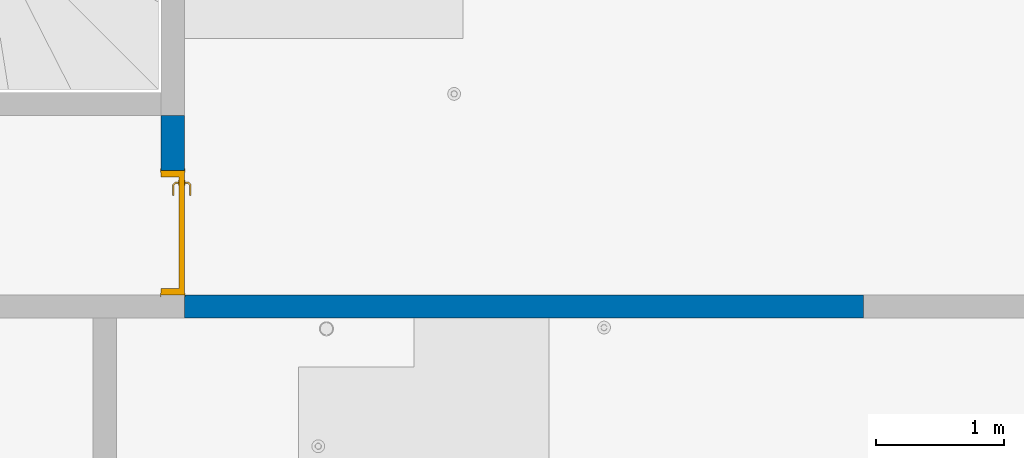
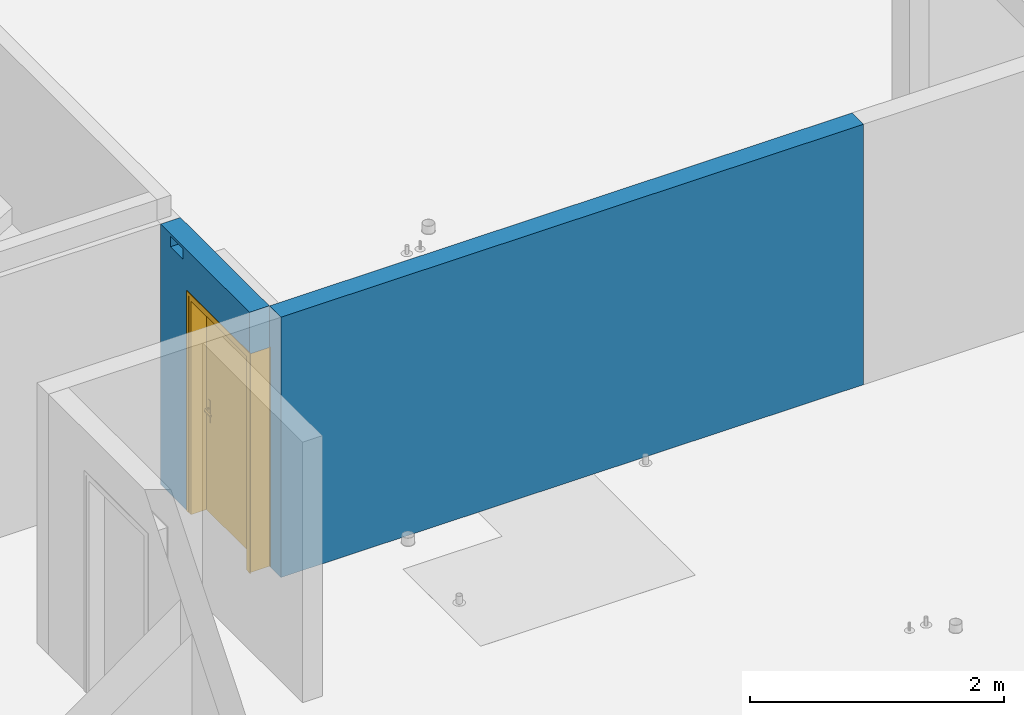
# One storey, part 17 of 34: 2 walls, 1 door, 3 openings.
"""IFC2X3 building model written with IfcOpenShell, lengths in centimetres."""

from ifc_helpers import new_model, entity, si_unit, converted_unit, derived_unit, direction, frame, frame_2d, origin, place, context, subcontext, project, spatial, rectangle, extrude, faceted_brep, source, transform, mapped, material, material_list, layer, layer_set, layer_usage, type_object, type_shapes, element, fill, save


model = new_model("IFC2X3")

# Units and contexts
model_context = context("Model", 3, precision=0.001, world=origin(), true_north=direction((6.12303176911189e-17, 1.0)))
body_context = subcontext(model_context, "Body", "Model", "MODEL_VIEW")
ifc_project = project(units=[si_unit("LENGTHUNIT", "METRE", prefix="CENTI"), si_unit("AREAUNIT", "SQUARE_METRE"), si_unit("VOLUMEUNIT", "CUBIC_METRE"), converted_unit("PLANEANGLEUNIT", "DEGREE", entity("IfcRatioMeasure", 0.0174532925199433), si_unit("PLANEANGLEUNIT", "RADIAN"), dimensions=[0, 0, 0, 0, 0, 0, 0]), si_unit("MASSUNIT", "GRAM", prefix="KILO"), derived_unit("MASSDENSITYUNIT", [(si_unit("MASSUNIT", "GRAM", prefix="KILO"), 1), (si_unit("LENGTHUNIT", "METRE"), -3)]), si_unit("TIMEUNIT", "SECOND"), si_unit("FREQUENCYUNIT", "HERTZ"), si_unit("THERMODYNAMICTEMPERATUREUNIT", "DEGREE_CELSIUS"), derived_unit("THERMALTRANSMITTANCEUNIT", [(si_unit("MASSUNIT", "GRAM", prefix="KILO"), 1), (si_unit("THERMODYNAMICTEMPERATUREUNIT", "KELVIN"), -1), (si_unit("TIMEUNIT", "SECOND"), -3)]), derived_unit("VOLUMETRICFLOWRATEUNIT", [(si_unit("LENGTHUNIT", "METRE"), 3), (si_unit("TIMEUNIT", "SECOND"), -1)]), si_unit("ELECTRICCURRENTUNIT", "AMPERE"), si_unit("ELECTRICVOLTAGEUNIT", "VOLT"), si_unit("POWERUNIT", "WATT"), si_unit("FORCEUNIT", "NEWTON"), si_unit("ILLUMINANCEUNIT", "LUX"), si_unit("LUMINOUSFLUXUNIT", "LUMEN"), si_unit("LUMINOUSINTENSITYUNIT", "CANDELA"), derived_unit("USERDEFINED", [(si_unit("MASSUNIT", "GRAM", prefix="KILO"), -1), (si_unit("LENGTHUNIT", "METRE"), -2), (si_unit("TIMEUNIT", "SECOND"), 3), (si_unit("LUMINOUSFLUXUNIT", "LUMEN"), 1)]), derived_unit("LINEARVELOCITYUNIT", [(si_unit("LENGTHUNIT", "METRE"), 1), (si_unit("TIMEUNIT", "SECOND"), -1)]), si_unit("PRESSUREUNIT", "PASCAL"), derived_unit("USERDEFINED", [(si_unit("LENGTHUNIT", "METRE"), -2), (si_unit("MASSUNIT", "GRAM", prefix="KILO"), 1), (si_unit("TIMEUNIT", "SECOND"), -2)])], contexts=[model_context])

# Site, building, storey
site_placement = place(None, origin())
site = spatial("IfcSite", under=ifc_project, at=site_placement, Name="Default", CompositionType="ELEMENT")
building_placement = place(site_placement, origin())
building = spatial("IfcBuilding", under=site, at=building_placement, Name="CAGE 03", CompositionType="ELEMENT")
storey_placement = place(building_placement, frame((0.0, 0.0, 340.0)))
storey = spatial("IfcBuildingStorey", under=building, at=storey_placement, Name="R+1", CompositionType="ELEMENT", Elevation=340.0)

# Wall, openings, door
ifc_material_1 = material(Name="Béton, C25/30")
ifc_layer = layer(ifc_material_1, 18.0)
ifc_layer_set = layer_set([ifc_layer], Name="Mur de base:Voile BA 18")
ifc_layer_usage_1 = layer_usage(ifc_layer_set, "AXIS2", "POSITIVE", -9.0)
wall_type = type_object("IfcWallType", Name="Mur de base:Voile BA 18", PredefinedType="STANDARD", material=ifc_layer_set)
wall_1_placement = place(storey_placement, frame((10499.3658201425, 4632.66066607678, 0.0), z_axis=(0.0, 0.0, 1.0), x_axis=(0.0, -1.0, 0.0)))
wall_1 = element("IfcWallStandardCase", 1, at=wall_1_placement, inside=storey, type_object=wall_type, material=ifc_layer_usage_1, Name="Mur de base:Voile BA 18", ObjectType="Mur de base:Voile BA 18", context=body_context, shape_type="SweptSolid", body=[
    extrude(rectangle(XDim=139.999999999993, YDim=17.9999999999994, at=frame_2d((69.9999999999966, 2.39808173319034e-13), x_axis=(-1.0, 0.0))), origin(), (0.0, 0.0, 1.0), 250.0),
])
opening_1_placement = place(wall_1_placement, origin())
element("IfcOpeningElement", 2, at=opening_1_placement, cuts=wall_1, Name="Mur de base:Voile BA 18", ObjectType="Opening", context=body_context, shape_type="SweptSolid", body=[
    extrude(rectangle(XDim=10.0, YDim=19.9999999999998, at=frame_2d((-4.33431068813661e-13, 5.41788836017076e-14), x_axis=(0.0, 1.0))), frame((25.4999999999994, -9.0, 242.5), z_axis=(0.0, 1.0, 0.0), x_axis=(1.0, 0.0, 0.0)), (0.0, 0.0, 1.0), 17.9999999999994),
])
opening_2_placement = place(wall_1_placement, frame((43.0, -9.0, 0.0)))
opening_2 = element("IfcOpeningElement", 3, at=opening_2_placement, cuts=wall_1, Name="Int. Simple:HB93:1", ObjectType="Opening", context=body_context, shape_type="SweptSolid", body=[
    extrude(rectangle(XDim=210.000000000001, YDim=96.9999999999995, at=frame_2d((105.000000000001, 48.4999999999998), x_axis=(1.0, 0.0))), frame((0.0, 0.0, 0.0), z_axis=(0.0, 1.0, 0.0), x_axis=(0.0, 0.0, 1.0)), (0.0, 0.0, 1.0), 18.0),
])
ifc_material_2 = material(Name="Finition Peinture - Blanc satiné")
ifc_material_3 = material(Name="Bois - Panneau de porte")
ifc_material_4 = material(Name="Bois - Cadre de porte")
ifc_material_list_1 = material_list([ifc_material_2, ifc_material_3, ifc_material_4])
ifc_material_list_2 = material_list([ifc_material_2, ifc_material_3, ifc_material_4])
door_style = type_object("IfcDoorStyle", Name="HB93", ConstructionType="NOTDEFINED", OperationType="SINGLE_SWING_RIGHT", ParameterTakesPrecedence=False, Sizeable=False, material=ifc_material_list_2)
shared_shape = source(origin(), body_context, "Body", "Brep", [
    faceted_brep([(96.5000000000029, -0.500000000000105, 87.0), (96.5000000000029, -0.500000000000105, 108.0), (95.535276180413, -0.500000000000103, 108.399601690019), (94.5000000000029, -0.500000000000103, 108.535898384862), (93.4647238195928, -0.500000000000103, 108.399601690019), (92.5000000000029, -0.500000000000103, 108.0), (92.5000000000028, -0.500000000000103, 87.0), (93.4647238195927, -0.500000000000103, 86.6003983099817), (94.5000000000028, -0.500000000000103, 86.464101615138), (95.5352761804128, -0.500000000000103, 86.6003983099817), (96.5000000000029, 0.0, 108.0), (96.5000000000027, 0.0, 87.0), (95.5352761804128, 0.0, 86.6003983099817), (94.5000000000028, 0.0, 86.464101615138), (93.4647238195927, 0.0, 86.6003983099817), (92.5000000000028, 0.0, 87.0), (92.5000000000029, 0.0, 108.0), (93.4647238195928, 0.0, 108.399601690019), (94.5000000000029, 0.0, 108.535898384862), (95.535276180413, 0.0, 108.399601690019)], [[[0, 1, 2, 3, 4, 5, 6, 7, 8, 9]], [[10, 11, 12, 13, 14, 15, 16, 17, 18, 19]], [[9, 12, 11, 0]], [[8, 13, 12, 9]], [[7, 14, 13, 8]], [[7, 6, 15, 14]], [[15, 6, 5, 16]], [[4, 17, 16, 5]], [[3, 18, 17, 4]], [[2, 19, 18, 3]], [[2, 1, 10, 19]], [[11, 10, 1, 0]]]),
    faceted_brep([(96.5000000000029, 4.0, 87.0), (96.5000000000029, 4.0, 108.0), (95.535276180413, 4.0, 108.399601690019), (94.5000000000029, 4.0, 108.535898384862), (93.4647238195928, 4.0, 108.399601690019), (92.500000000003, 4.0, 108.0), (92.5000000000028, 4.0, 87.0), (93.4647238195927, 4.0, 86.6003983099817), (94.5000000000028, 4.0, 86.464101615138), (95.5352761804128, 4.0, 86.6003983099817), (94.5000000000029, 4.49999999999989, 108.535898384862), (95.535276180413, 4.49999999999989, 108.399601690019), (96.5000000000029, 4.49999999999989, 108.0), (96.5000000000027, 4.49999999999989, 87.0), (95.5352761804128, 4.49999999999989, 86.6003983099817), (94.5000000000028, 4.49999999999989, 86.464101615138), (93.4647238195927, 4.49999999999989, 86.6003983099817), (92.5000000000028, 4.4999999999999, 87.0), (92.5000000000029, 4.4999999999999, 108.0), (93.4647238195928, 4.49999999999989, 108.399601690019)], [[[0, 1, 2, 3, 4, 5, 6, 7, 8, 9]], [[10, 11, 12, 13, 14, 15, 16, 17, 18, 19]], [[4, 19, 18, 5]], [[3, 10, 19, 4]], [[2, 11, 10, 3]], [[2, 1, 12, 11]], [[13, 12, 1, 0]], [[9, 14, 13, 0]], [[8, 15, 14, 9]], [[7, 16, 15, 8]], [[7, 6, 17, 16]], [[17, 6, 5, 18]]]),
    faceted_brep([(94.2974701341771, -0.500000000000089, 100.778044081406), (94.7025298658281, -0.500000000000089, 100.778044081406), (95.100000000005, -0.500000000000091, 100.699999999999), (95.100000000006, -0.500000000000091, 99.2999999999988), (94.7025298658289, -0.500000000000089, 99.221955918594), (94.297470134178, -0.500000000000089, 99.2219559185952), (93.9000000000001, -0.500000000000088, 99.3000000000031), (93.9000000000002, -0.500000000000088, 100.7), (94.7025298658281, -3.10045754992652, 100.778044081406), (95.1000000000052, -3.26509507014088, 100.7), (94.2974701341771, -2.93267631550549, 100.778044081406), (92.9298602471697, -4.30028620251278, 100.778044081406), (93.0976414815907, -4.70534593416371, 100.778044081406), (93.9000000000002, -2.76803879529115, 100.7), (93.9000000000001, -2.76803879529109, 99.3000000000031), (94.297470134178, -2.93267631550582, 99.2219559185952), (94.7025298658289, -3.10045754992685, 99.221955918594), (93.0976414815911, -4.70534593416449, 99.221955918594), (92.9298602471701, -4.30028620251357, 99.2219559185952), (95.100000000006, -3.26509507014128, 99.2999999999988), (93.2622790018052, -5.1028160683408, 100.7), (92.7652227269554, -3.90281606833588, 100.7), (92.7652227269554, -3.90281606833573, 99.3000000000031), (93.2622790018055, -5.10281606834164, 99.2999999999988), (84.4981359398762, -5.10281606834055, 100.7), (84.4981359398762, -4.70534593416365, 100.778044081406), (84.4981359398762, -4.30028620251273, 100.778044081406), (84.4981359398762, -3.90281606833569, 100.699999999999), (84.4981359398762, -3.90281606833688, 99.3000000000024), (84.4981359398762, -4.30028620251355, 99.2219559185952), (84.4981359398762, -4.70534593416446, 99.221955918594), (84.4981359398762, -5.10281606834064, 99.2999999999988), (88.7139980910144, -4.5028160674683, 100.78786867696), (89.2692302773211, -5.1028160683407, 100.7), (88.6316793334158, -3.90281606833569, 100.7), (88.631679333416, -3.90281606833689, 99.3000000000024), (88.7139981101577, -4.50281607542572, 99.2121313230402), (89.2692310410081, -5.10281606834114, 99.2999999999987)], [[[0, 1, 2, 3, 4, 5, 6, 7]], [[2, 1, 8, 9]], [[1, 0, 10, 11, 12, 8]], [[0, 7, 13, 10]], [[14, 13, 7, 6]], [[5, 15, 14, 6]], [[5, 4, 16, 17, 18, 15]], [[3, 19, 16, 4]], [[9, 19, 3, 2]], [[9, 8, 12, 20]], [[10, 13, 21, 11]], [[22, 21, 13, 14]], [[14, 15, 18, 22]], [[16, 19, 23, 17]], [[20, 23, 19, 9]], [[24, 25, 26, 27, 28, 29, 30, 31]], [[32, 25, 33]], [[33, 25, 24]], [[33, 20, 12]], [[11, 34, 32]], [[34, 11, 21]], [[27, 26, 34]], [[32, 26, 25]], [[32, 34, 26]], [[32, 33, 12]], [[11, 32, 12]], [[21, 22, 35, 28, 27, 34]], [[36, 29, 35]], [[30, 36, 37]], [[18, 35, 22]], [[29, 28, 35]], [[30, 37, 31]], [[37, 17, 23]], [[36, 17, 37]], [[36, 18, 17]], [[36, 35, 18]], [[29, 36, 30]], [[23, 20, 33, 24, 31, 37]]]),
    faceted_brep([(94.2974701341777, 4.49999999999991, 99.2219559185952), (94.7025298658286, 4.49999999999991, 99.221955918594), (95.1000000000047, 4.49999999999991, 99.2999999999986), (95.1000000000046, 4.49999999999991, 100.7), (94.7025298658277, 4.49999999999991, 100.778044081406), (94.2974701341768, 4.49999999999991, 100.778044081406), (93.8999999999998, 4.49999999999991, 100.7), (93.900000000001, 4.49999999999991, 99.3000000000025), (93.8999999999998, 6.7485204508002, 100.7), (93.8999999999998, 6.74852045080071, 99.3000000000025), (94.2974701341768, 6.91315797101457, 100.778044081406), (94.7025298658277, 7.0809392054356, 100.778044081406), (93.0838906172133, 8.69957845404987, 100.778044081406), (92.9161093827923, 8.29451872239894, 100.778044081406), (95.1000000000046, 7.24557672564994, 100.7), (95.1000000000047, 7.24557672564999, 99.2999999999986), (94.7025298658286, 7.08093920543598, 99.221955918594), (94.2974701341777, 6.91315797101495, 99.2219559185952), (92.9161093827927, 8.29451872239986, 99.2219559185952), (93.0838906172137, 8.69957845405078, 99.221955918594), (92.751471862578, 7.89704858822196, 100.7), (92.7514718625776, 7.89704858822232, 99.3000000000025), (93.2485281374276, 9.09704858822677, 100.7), (93.2485281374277, 9.09704858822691, 99.2999999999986), (84.4954216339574, 8.29451872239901, 100.778044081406), (84.4954216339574, 8.69957845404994, 100.778044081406), (84.4954216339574, 9.09704858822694, 100.7), (84.4954216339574, 9.09704858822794, 99.2999999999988), (84.4954216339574, 8.6995784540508, 99.221955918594), (84.4954216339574, 8.29451872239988, 99.2219559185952), (84.4954216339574, 7.89704858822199, 99.3000000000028), (84.4954216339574, 7.89704858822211, 100.7), (88.6234467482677, 7.89704858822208, 100.7), (88.6234479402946, 7.89704858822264, 99.3000000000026), (88.7057655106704, 8.49704858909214, 100.78786867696), (89.255479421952, 9.09704858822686, 100.7), (89.2554795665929, 9.09704858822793, 99.2999999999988), (88.7057654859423, 8.49704858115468, 99.2121313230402)], [[[0, 1, 2, 3, 4, 5, 6, 7]], [[8, 9, 7, 6]], [[5, 10, 8, 6]], [[5, 4, 11, 12, 13, 10]], [[3, 14, 11, 4]], [[14, 3, 2, 15]], [[2, 1, 16, 15]], [[1, 0, 17, 18, 19, 16]], [[0, 7, 9, 17]], [[20, 21, 9, 8]], [[8, 10, 13, 20]], [[14, 22, 12, 11]], [[23, 22, 14, 15]], [[15, 16, 19, 23]], [[17, 9, 21, 18]], [[24, 25, 26, 27, 28, 29, 30, 31]], [[21, 20, 32, 31, 30, 33]], [[34, 24, 32]], [[25, 34, 35]], [[13, 32, 20]], [[24, 31, 32]], [[25, 35, 26]], [[35, 12, 22]], [[34, 12, 35]], [[34, 13, 12]], [[34, 32, 13]], [[24, 34, 25]], [[22, 23, 36, 27, 26, 35]], [[37, 28, 36]], [[36, 28, 27]], [[36, 23, 19]], [[18, 33, 37]], [[33, 18, 21]], [[30, 29, 33]], [[37, 29, 28]], [[37, 33, 29]], [[37, 36, 19]], [[18, 37, 19]]]),
    faceted_brep([(100.500000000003, 4.0, 206.5), (100.500000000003, 4.0, 0.0), (10.5000000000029, 4.0, 0.0), (10.5000000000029, 4.0, 206.5), (100.500000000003, 0.0, 206.5), (10.5000000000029, 0.0, 206.5), (10.5000000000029, 0.0, 0.0), (100.500000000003, 0.0, 0.0)], [[[0, 1, 2, 3]], [[4, 5, 6, 7]], [[3, 5, 4, 0]], [[2, 6, 5, 3]], [[1, 7, 6, 2]], [[0, 4, 7, 1]]]),
    faceted_brep([(104.0, 0.0, 0.0), (100.500000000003, 0.0, 0.0), (100.500000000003, 4.0, 0.0), (99.0, 4.0, 0.0), (99.0, 18.0, 0.0), (104.0, 18.0, 0.0), (104.0, 18.0, 210.0), (104.0, 0.0, 210.0), (99.0, 18.0, 205.0), (12.0, 18.0, 205.0), (12.0, 18.0, 0.0), (7.0, 18.0, 0.0), (7.0, 18.0, 210.0), (99.0, 4.0, 205.0), (100.500000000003, 4.0, 206.5), (10.5000000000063, 4.0, 206.5), (10.5000000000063, 4.0, 0.0), (12.0, 4.0, 0.0), (12.0, 4.0, 205.0), (100.500000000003, 0.0, 206.5), (7.0, 0.0, 210.0), (7.0, 0.0, 0.0), (10.5000000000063, 0.0, 0.0), (10.5000000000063, 0.0, 206.5)], [[[0, 1, 2, 3, 4, 5]], [[5, 6, 7, 0]], [[4, 8, 9, 10, 11, 12, 6, 5]], [[3, 13, 8, 4]], [[2, 14, 15, 16, 17, 18, 13, 3]], [[1, 19, 14, 2]], [[0, 7, 20, 21, 22, 23, 19, 1]], [[12, 11, 21, 20]], [[21, 11, 10, 17, 16, 22]], [[18, 17, 10, 9]], [[23, 22, 16, 15]], [[6, 12, 20, 7]], [[13, 18, 9, 8]], [[19, 23, 15, 14]]]),
    faceted_brep([(102.500000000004, 18.0, 0.0), (102.500000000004, 18.5000000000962, 0.0), (105.500000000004, 18.5000000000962, 0.0), (105.500000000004, 18.0, 0.0), (105.500000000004, 18.0, 211.500000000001), (5.50000000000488, 18.0, 211.500000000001), (5.50000000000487, 18.0, 0.0), (8.50000000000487, 18.0, 0.0), (8.50000000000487, 18.0, 208.500000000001), (102.500000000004, 18.0, 208.500000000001), (105.500000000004, 18.5000000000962, 211.500000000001), (102.500000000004, 18.5000000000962, 208.500000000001), (8.50000000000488, 18.5000000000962, 208.500000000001), (8.50000000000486, 18.5000000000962, 0.0), (5.50000000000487, 18.5000000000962, 0.0), (5.50000000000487, 18.5000000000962, 211.500000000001)], [[[0, 1, 2, 3]], [[3, 4, 5, 6, 7, 8, 9, 0]], [[2, 10, 4, 3]], [[1, 11, 12, 13, 14, 15, 10, 2]], [[0, 9, 11, 1]], [[7, 6, 14, 13]], [[8, 7, 13, 12]], [[15, 14, 6, 5]], [[10, 15, 5, 4]], [[9, 8, 12, 11]]]),
    faceted_brep([(105.500000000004, -0.5, 0.0), (105.500000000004, -0.5, 211.500000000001), (5.50000000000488, -0.5, 211.500000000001), (5.50000000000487, -0.5, 0.0), (8.50000000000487, -0.5, 0.0), (8.50000000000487, -0.5, 208.500000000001), (102.500000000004, -0.5, 208.500000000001), (102.500000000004, -0.5, 0.0), (105.500000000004, 0.0, 0.0), (105.500000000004, 0.0, 211.500000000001), (102.500000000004, 0.0, 0.0), (102.500000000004, 0.0, 208.500000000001), (8.50000000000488, 0.0, 208.500000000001), (8.50000000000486, 0.0, 0.0), (5.50000000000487, 0.0, 0.0), (5.50000000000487, 0.0, 211.500000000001)], [[[0, 1, 2, 3, 4, 5, 6, 7]], [[8, 9, 1, 0]], [[10, 11, 12, 13, 14, 15, 9, 8]], [[7, 6, 11, 10]], [[5, 4, 13, 12]], [[15, 14, 3, 2]], [[9, 15, 2, 1]], [[6, 5, 12, 11]], [[4, 3, 14, 13]], [[7, 10, 8, 0]]]),
])
type_shapes(door_style, [shared_shape])
door_placement = place(opening_2_placement, frame((104.0, 18.0, 0.0), z_axis=(0.0, 0.0, 1.0), x_axis=(-1.0, 0.0, 0.0)))
door = element("IfcDoor", 4, at=door_placement, inside=storey, type_object=door_style, material=ifc_material_list_1, Name="Int. Simple:HB93", ObjectType="HB93", OverallHeight=210.000000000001, OverallWidth=96.9999999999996, context=body_context, shape_type="MappedRepresentation", body=[
    mapped(shared_shape, transform((0.0, 0.0, 0.0), scale=1.0)),
])
fill(opening_2, door)

# Wall, opening
ifc_layer_usage_2 = layer_usage(ifc_layer_set, "AXIS2", "POSITIVE", -9.0)
wall_2_placement = place(storey_placement, frame((11037.3658201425, 4483.66066607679, 0.0), z_axis=(0.0, 0.0, 1.0), x_axis=(-1.0, 0.0, 0.0)))
wall_2 = element("IfcWallStandardCase", 5, at=wall_2_placement, inside=storey, type_object=wall_type, material=ifc_layer_usage_2, Name="Mur de base:Voile BA 18", ObjectType="Mur de base:Voile BA 18", context=body_context, shape_type="SweptSolid", body=[
    extrude(rectangle(XDim=528.999999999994, YDim=17.9999999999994, at=frame_2d((264.499999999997, 8.26005930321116e-14), x_axis=(-1.0, 0.0))), origin(), (0.0, 0.0, 1.0), 250.0),
])
opening_3_placement = place(wall_2_placement, origin())
element("IfcOpeningElement", 6, at=opening_3_placement, cuts=wall_2, Name="Mur de base:Voile BA 18", ObjectType="Opening", context=body_context, shape_type="SweptSolid", body=[
    extrude(rectangle(XDim=210.000000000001, YDim=17.9999999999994, at=frame_2d((0.0, 0.0), x_axis=(0.0, 1.0))), frame((538.0, -106.0, 105.0), z_axis=(0.0, 1.0, 0.0), x_axis=(-1.0, 0.0, 0.0)), (0.0, 0.0, 1.0), 96.9999999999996),
])

save(model, "model.ifc")
